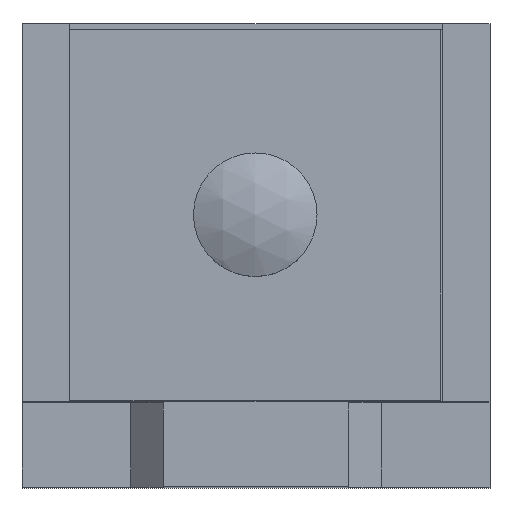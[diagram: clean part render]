
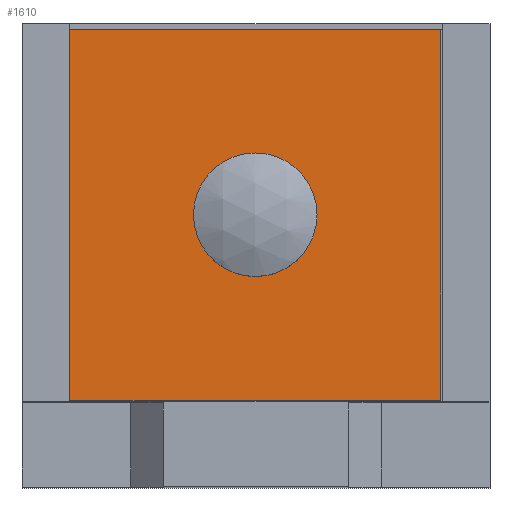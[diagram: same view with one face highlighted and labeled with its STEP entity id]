
A CAD part, top view. The second image highlights one B-rep face of the part: STEP entity #1610.
In plain terms, the highlighted planar face has unit normal (0, 0, 1).
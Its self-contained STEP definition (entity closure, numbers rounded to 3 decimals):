
#1459=CARTESIAN_POINT('',(-12.,-9.45,67.0));
#1460=VERTEX_POINT('',#1459);
#1467=CARTESIAN_POINT('',(-12.,14.55,67.0));
#1468=VERTEX_POINT('',#1467);
#1469=CARTESIAN_POINT('',(-12.,14.55,67.));
#1470=DIRECTION('',(0.0,-1.0,0.0));
#1471=VECTOR('',#1470,24.);
#1472=LINE('',#1469,#1471);
#1473=EDGE_CURVE('',#1468,#1460,#1472,.T.);
#1497=CARTESIAN_POINT('',(12.,-9.45,67.0));
#1498=VERTEX_POINT('',#1497);
#1505=CARTESIAN_POINT('',(-12.,-9.45,67.));
#1506=DIRECTION('',(1.0,0.0,0.0));
#1507=VECTOR('',#1506,24.);
#1508=LINE('',#1505,#1507);
#1509=EDGE_CURVE('',#1460,#1498,#1508,.T.);
#1528=CARTESIAN_POINT('',(12.,14.55,67.0));
#1529=VERTEX_POINT('',#1528);
#1536=CARTESIAN_POINT('',(12.,-9.45,67.));
#1537=DIRECTION('',(0.0,1.0,0.0));
#1538=VECTOR('',#1537,24.0);
#1539=LINE('',#1536,#1538);
#1540=EDGE_CURVE('',#1498,#1529,#1539,.T.);
#1558=CARTESIAN_POINT('',(12.,14.55,67.));
#1559=DIRECTION('',(-1.0,0.0,0.0));
#1560=VECTOR('',#1559,24.);
#1561=LINE('',#1558,#1560);
#1562=EDGE_CURVE('',#1529,#1468,#1561,.T.);
#1573=CARTESIAN_POINT('',(-4.0,2.55,67.));
#1574=VERTEX_POINT('',#1573);
#1575=CARTESIAN_POINT('',(0.0,2.55,67.));
#1576=DIRECTION('',(0.0,0.0,-1.0));
#1577=DIRECTION('',(1.0,0.0,0.0));
#1578=AXIS2_PLACEMENT_3D('',#1575,#1576,#1577);
#1579=CIRCLE('',#1578,4.0);
#1580=EDGE_CURVE('',#1574,#1574,#1579,.T.);
#1596=CARTESIAN_POINT('',(0.0,0.0,67.));
#1597=DIRECTION('',(0.0,0.0,-1.0));
#1598=DIRECTION('',(-1.0,0.0,0.0));
#1599=AXIS2_PLACEMENT_3D('',#1596,#1597,#1598);
#1600=PLANE('',#1599);
#1601=ORIENTED_EDGE('',*,*,#1473,.T.);
#1602=ORIENTED_EDGE('',*,*,#1509,.T.);
#1603=ORIENTED_EDGE('',*,*,#1540,.T.);
#1604=ORIENTED_EDGE('',*,*,#1562,.T.);
#1605=EDGE_LOOP('',(#1601,#1602,#1603,#1604));
#1606=FACE_OUTER_BOUND('',#1605,.T.);
#1607=ORIENTED_EDGE('',*,*,#1580,.T.);
#1608=EDGE_LOOP('',(#1607));
#1609=FACE_BOUND('',#1608,.T.);
#1610=ADVANCED_FACE('',(#1606,#1609),#1600,.F.);
